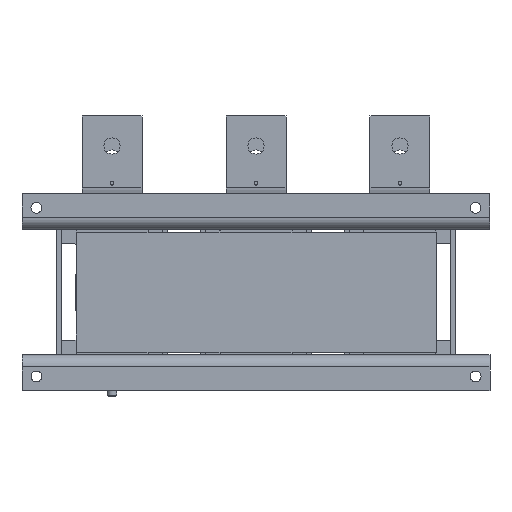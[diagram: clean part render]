
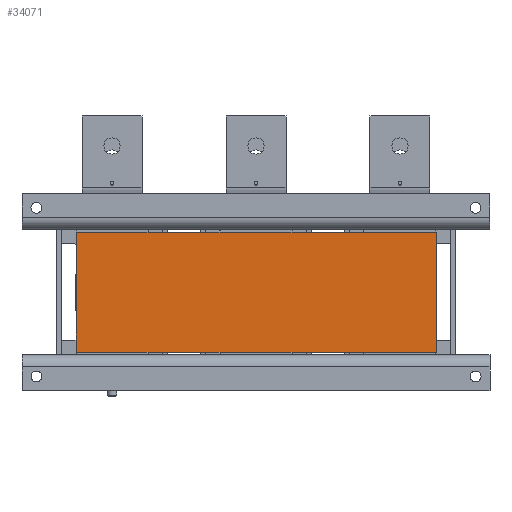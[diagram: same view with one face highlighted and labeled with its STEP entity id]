
A CAD part, front view. The second image highlights one B-rep face of the part: STEP entity #34071.
In plain terms, the highlighted planar face has unit normal (0, -1, 0).
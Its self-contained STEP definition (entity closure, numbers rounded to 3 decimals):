
#1314=LINE('',#49774,#4645);
#1593=LINE('',#50573,#4924);
#1594=LINE('',#50575,#4925);
#1595=LINE('',#50577,#4926);
#1596=LINE('',#50579,#4927);
#1597=LINE('',#50581,#4928);
#1598=LINE('',#50582,#4929);
#1599=LINE('',#50584,#4930);
#1600=LINE('',#50586,#4931);
#1601=LINE('',#50588,#4932);
#1602=LINE('',#50590,#4933);
#1603=LINE('',#50591,#4934);
#4645=VECTOR('',#40330,10.);
#4924=VECTOR('',#41049,10.);
#4925=VECTOR('',#41050,10.);
#4926=VECTOR('',#41051,10.);
#4927=VECTOR('',#41052,10.);
#4928=VECTOR('',#41053,10.);
#4929=VECTOR('',#41054,10.);
#4930=VECTOR('',#41055,10.);
#4931=VECTOR('',#41056,10.);
#4932=VECTOR('',#41057,10.);
#4933=VECTOR('',#41058,10.);
#4934=VECTOR('',#41059,10.);
#7613=PLANE('',#36279);
#9483=FACE_OUTER_BOUND('',#11539,.T.);
#11539=EDGE_LOOP('',(#24586,#24587,#24588,#24589,#24590,#24591,#24592,#24593,
#24594,#24595,#24596,#24597));
#14946=VERTEX_POINT('',#49771);
#14947=VERTEX_POINT('',#49773);
#15246=VERTEX_POINT('',#50571);
#15247=VERTEX_POINT('',#50572);
#15248=VERTEX_POINT('',#50574);
#15249=VERTEX_POINT('',#50576);
#15250=VERTEX_POINT('',#50578);
#15251=VERTEX_POINT('',#50580);
#15252=VERTEX_POINT('',#50583);
#15253=VERTEX_POINT('',#50585);
#15254=VERTEX_POINT('',#50587);
#15255=VERTEX_POINT('',#50589);
#18389=EDGE_CURVE('',#14947,#14946,#1314,.T.);
#18776=EDGE_CURVE('',#15246,#15247,#1593,.T.);
#18777=EDGE_CURVE('',#15248,#15246,#1594,.T.);
#18778=EDGE_CURVE('',#15249,#15248,#1595,.T.);
#18779=EDGE_CURVE('',#15250,#15249,#1596,.T.);
#18780=EDGE_CURVE('',#15251,#15250,#1597,.T.);
#18781=EDGE_CURVE('',#14947,#15251,#1598,.T.);
#18782=EDGE_CURVE('',#15252,#14946,#1599,.T.);
#18783=EDGE_CURVE('',#15253,#15252,#1600,.T.);
#18784=EDGE_CURVE('',#15254,#15253,#1601,.T.);
#18785=EDGE_CURVE('',#15255,#15254,#1602,.T.);
#18786=EDGE_CURVE('',#15247,#15255,#1603,.T.);
#24586=ORIENTED_EDGE('',*,*,#18776,.F.);
#24587=ORIENTED_EDGE('',*,*,#18777,.F.);
#24588=ORIENTED_EDGE('',*,*,#18778,.F.);
#24589=ORIENTED_EDGE('',*,*,#18779,.F.);
#24590=ORIENTED_EDGE('',*,*,#18780,.F.);
#24591=ORIENTED_EDGE('',*,*,#18781,.F.);
#24592=ORIENTED_EDGE('',*,*,#18389,.T.);
#24593=ORIENTED_EDGE('',*,*,#18782,.F.);
#24594=ORIENTED_EDGE('',*,*,#18783,.F.);
#24595=ORIENTED_EDGE('',*,*,#18784,.F.);
#24596=ORIENTED_EDGE('',*,*,#18785,.F.);
#24597=ORIENTED_EDGE('',*,*,#18786,.F.);
#34071=ADVANCED_FACE('',(#9483),#7613,.T.);
#36279=AXIS2_PLACEMENT_3D('',#50570,#41047,#41048);
#40330=DIRECTION('',(0.,0.,1.));
#41047=DIRECTION('center_axis',(0.,-1.,0.));
#41048=DIRECTION('ref_axis',(1.,0.,0.));
#41049=DIRECTION('',(0.,0.,1.));
#41050=DIRECTION('',(-1.,0.,0.));
#41051=DIRECTION('',(-1.,0.,0.));
#41052=DIRECTION('',(-1.,0.,0.));
#41053=DIRECTION('',(-1.,0.,0.));
#41054=DIRECTION('',(-1.,0.,0.));
#41055=DIRECTION('',(1.,0.,0.));
#41056=DIRECTION('',(1.,0.,0.));
#41057=DIRECTION('',(1.,0.,0.));
#41058=DIRECTION('',(1.,0.,0.));
#41059=DIRECTION('',(1.,0.,0.));
#49771=CARTESIAN_POINT('',(150.,-259.82,50.));
#49773=CARTESIAN_POINT('',(150.,-259.82,-50.));
#49774=CARTESIAN_POINT('',(150.,-259.82,0.));
#50570=CARTESIAN_POINT('Origin',(-150.,-259.82,0.));
#50571=CARTESIAN_POINT('',(-150.,-259.82,-50.));
#50572=CARTESIAN_POINT('',(-150.,-259.82,50.));
#50573=CARTESIAN_POINT('',(-150.,-259.82,0.));
#50574=CARTESIAN_POINT('',(-90.,-259.82,-50.));
#50575=CARTESIAN_POINT('',(-135.,-259.82,-50.));
#50576=CARTESIAN_POINT('',(-30.,-259.82,-50.));
#50577=CARTESIAN_POINT('',(-150.,-259.82,-50.));
#50578=CARTESIAN_POINT('',(30.,-259.82,-50.));
#50579=CARTESIAN_POINT('',(-75.,-259.82,-50.));
#50580=CARTESIAN_POINT('',(90.,-259.82,-50.));
#50581=CARTESIAN_POINT('',(-150.,-259.82,-50.));
#50582=CARTESIAN_POINT('',(-15.,-259.82,-50.));
#50583=CARTESIAN_POINT('',(90.,-259.82,50.));
#50584=CARTESIAN_POINT('',(-15.,-259.82,50.));
#50585=CARTESIAN_POINT('',(30.,-259.82,50.));
#50586=CARTESIAN_POINT('',(-150.,-259.82,50.));
#50587=CARTESIAN_POINT('',(-30.,-259.82,50.));
#50588=CARTESIAN_POINT('',(-75.,-259.82,50.));
#50589=CARTESIAN_POINT('',(-90.,-259.82,50.));
#50590=CARTESIAN_POINT('',(-150.,-259.82,50.));
#50591=CARTESIAN_POINT('',(-135.,-259.82,50.));
